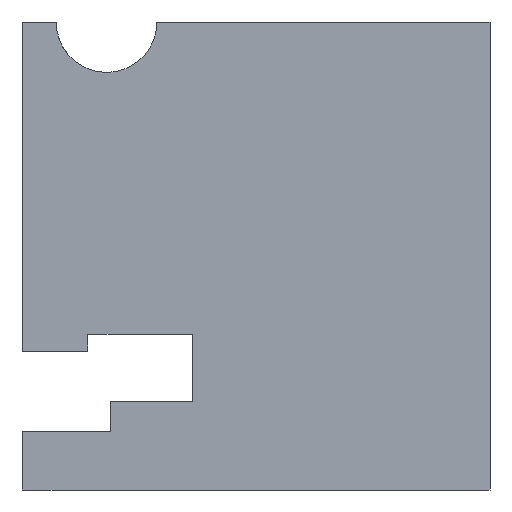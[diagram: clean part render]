
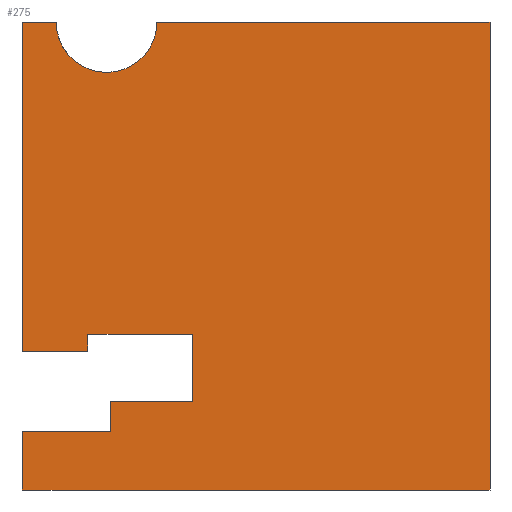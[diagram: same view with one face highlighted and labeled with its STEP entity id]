
A CAD part, front view. The second image highlights one B-rep face of the part: STEP entity #275.
In plain terms, the highlighted planar face has unit normal (0, -1, 0).
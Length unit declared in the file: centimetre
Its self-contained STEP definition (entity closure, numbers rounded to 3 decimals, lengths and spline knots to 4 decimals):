
#6 = CARTESIAN_POINT ( 'NONE',  ( 0., 0., 1000. ) ) ;
#8 = VECTOR ( 'NONE', #1647, 100. ) ;
#25 = CARTESIAN_POINT ( 'NONE',  ( 188.845, 0., 125.0425 ) ) ;
#51 = EDGE_CURVE ( 'NONE', #1244, #75, #1020, .T. ) ;
#63 = DIRECTION ( 'NONE',  ( -1., 0., 0. ) ) ;
#74 = LINE ( 'NONE', #376, #1509 ) ;
#75 = VERTEX_POINT ( 'NONE', #1354 ) ;
#106 = LINE ( 'NONE', #1511, #1222 ) ;
#131 = LINE ( 'NONE', #882, #1593 ) ;
#138 = VERTEX_POINT ( 'NONE', #1659 ) ;
#143 = DIRECTION ( 'NONE',  ( 1., 0., 0. ) ) ;
#175 = DIRECTION ( 'NONE',  ( 1., 0., 0. ) ) ;
#189 = ORIENTED_EDGE ( 'NONE', *, *, #1125, .F. ) ;
#246 = CARTESIAN_POINT ( 'NONE',  ( 140.6982, 0., 296.4554 ) ) ;
#247 = VERTEX_POINT ( 'NONE', #479 ) ;
#251 = DIRECTION ( 'NONE',  ( 0., 0., -1. ) ) ;
#266 = DIRECTION ( 'NONE',  ( 0., 0., -1. ) ) ;
#275 = ADVANCED_FACE ( 'NONE', ( #1549 ), #1397, .F. ) ;
#286 = CARTESIAN_POINT ( 'NONE',  ( 180.6003, 0., 1000. ) ) ;
#297 = EDGE_CURVE ( 'NONE', #247, #1536, #74, .T. ) ;
#307 = ORIENTED_EDGE ( 'NONE', *, *, #464, .T. ) ;
#321 = VECTOR ( 'NONE', #1171, 100. ) ;
#340 = CARTESIAN_POINT ( 'NONE',  ( 0., 0., 1000. ) ) ;
#361 = VERTEX_POINT ( 'NONE', #691 ) ;
#376 = CARTESIAN_POINT ( 'NONE',  ( 0., 0., 1000. ) ) ;
#395 = CARTESIAN_POINT ( 'NONE',  ( 140.6982, 0., 189.4679 ) ) ;
#403 = LINE ( 'NONE', #395, #321 ) ;
#419 = LINE ( 'NONE', #713, #991 ) ;
#421 = CARTESIAN_POINT ( 'NONE',  ( 0., 0., 1000. ) ) ;
#426 = VECTOR ( 'NONE', #1343, 100. ) ;
#461 = ORIENTED_EDGE ( 'NONE', *, *, #1425, .T. ) ;
#464 = EDGE_CURVE ( 'NONE', #138, #916, #403, .T. ) ;
#468 = DIRECTION ( 'NONE',  ( 0., 0., 1. ) ) ;
#474 = ORIENTED_EDGE ( 'NONE', *, *, #51, .T. ) ;
#479 = CARTESIAN_POINT ( 'NONE',  ( 288.2997, 0., 1000. ) ) ;
#483 = LINE ( 'NONE', #1054, #1112 ) ;
#490 = EDGE_CURVE ( 'NONE', #361, #247, #706, .T. ) ;
#491 = VERTEX_POINT ( 'NONE', #1029 ) ;
#516 = VERTEX_POINT ( 'NONE', #246 ) ;
#517 = CARTESIAN_POINT ( 'NONE',  ( 0., 0., 125.0425 ) ) ;
#522 = LINE ( 'NONE', #1881, #610 ) ;
#564 = EDGE_CURVE ( 'NONE', #491, #751, #419, .T. ) ;
#610 = VECTOR ( 'NONE', #63, 100. ) ;
#675 = EDGE_CURVE ( 'NONE', #1446, #1510, #106, .T. ) ;
#691 = CARTESIAN_POINT ( 'NONE',  ( 180.6003, 0., 892.3005 ) ) ;
#706 = CIRCLE ( 'NONE', #1800, 107.6995 ) ;
#710 = CARTESIAN_POINT ( 'NONE',  ( 180.6003, 0., 1000. ) ) ;
#713 = CARTESIAN_POINT ( 'NONE',  ( 140.6982, 0., 332.4044 ) ) ;
#751 = VERTEX_POINT ( 'NONE', #1096 ) ;
#764 = LINE ( 'NONE', #1094, #866 ) ;
#766 = VECTOR ( 'NONE', #251, 100. ) ;
#785 = LINE ( 'NONE', #340, #1248 ) ;
#866 = VECTOR ( 'NONE', #1711, 100. ) ;
#880 = VERTEX_POINT ( 'NONE', #517 ) ;
#882 = CARTESIAN_POINT ( 'NONE',  ( 1000., 0., 1000. ) ) ;
#884 = DIRECTION ( 'NONE',  ( 0., 0., -1. ) ) ;
#889 = CARTESIAN_POINT ( 'NONE',  ( 0., 0., 0. ) ) ;
#891 = CARTESIAN_POINT ( 'NONE',  ( 364.6813, 0., 189.4679 ) ) ;
#897 = VERTEX_POINT ( 'NONE', #1877 ) ;
#911 = DIRECTION ( 'NONE',  ( 0., 1., 0. ) ) ;
#916 = VERTEX_POINT ( 'NONE', #1114 ) ;
#967 = ORIENTED_EDGE ( 'NONE', *, *, #1790, .T. ) ;
#991 = VECTOR ( 'NONE', #1040, 100. ) ;
#1015 = ORIENTED_EDGE ( 'NONE', *, *, #675, .F. ) ;
#1020 = LINE ( 'NONE', #889, #426 ) ;
#1029 = CARTESIAN_POINT ( 'NONE',  ( 140.6982, 0., 332.4044 ) ) ;
#1040 = DIRECTION ( 'NONE',  ( 1., 0., 0. ) ) ;
#1054 = CARTESIAN_POINT ( 'NONE',  ( 0., 0., 125.0425 ) ) ;
#1078 = CARTESIAN_POINT ( 'NONE',  ( 72.9008, 0., 1000. ) ) ;
#1094 = CARTESIAN_POINT ( 'NONE',  ( 0., 0., 1000. ) ) ;
#1096 = CARTESIAN_POINT ( 'NONE',  ( 364.6813, 0., 332.4044 ) ) ;
#1103 = EDGE_CURVE ( 'NONE', #1536, #75, #131, .T. ) ;
#1112 = VECTOR ( 'NONE', #175, 100. ) ;
#1114 = CARTESIAN_POINT ( 'NONE',  ( 188.845, 0., 189.4679 ) ) ;
#1125 = EDGE_CURVE ( 'NONE', #1510, #361, #1219, .T. ) ;
#1127 = ORIENTED_EDGE ( 'NONE', *, *, #1103, .F. ) ;
#1136 = EDGE_CURVE ( 'NONE', #751, #138, #1940, .T. ) ;
#1167 = VERTEX_POINT ( 'NONE', #1661 ) ;
#1171 = DIRECTION ( 'NONE',  ( -1., 0., 0. ) ) ;
#1210 = CARTESIAN_POINT ( 'NONE',  ( 0., 0., 0. ) ) ;
#1219 = CIRCLE ( 'NONE', #1855, 107.6995 ) ;
#1222 = VECTOR ( 'NONE', #143, 100. ) ;
#1244 = VERTEX_POINT ( 'NONE', #1210 ) ;
#1248 = VECTOR ( 'NONE', #1561, 100. ) ;
#1286 = EDGE_CURVE ( 'NONE', #880, #1167, #483, .T. ) ;
#1332 = LINE ( 'NONE', #1926, #8 ) ;
#1343 = DIRECTION ( 'NONE',  ( 1., 0., 0. ) ) ;
#1346 = DIRECTION ( 'NONE',  ( 0., -1., 0. ) ) ;
#1354 = CARTESIAN_POINT ( 'NONE',  ( 1000., 0., 0. ) ) ;
#1360 = LINE ( 'NONE', #25, #1631 ) ;
#1369 = EDGE_CURVE ( 'NONE', #516, #897, #522, .T. ) ;
#1397 = PLANE ( 'NONE',  #1734 ) ;
#1425 = EDGE_CURVE ( 'NONE', #516, #491, #1332, .T. ) ;
#1446 = VERTEX_POINT ( 'NONE', #421 ) ;
#1452 = ORIENTED_EDGE ( 'NONE', *, *, #564, .T. ) ;
#1476 = DIRECTION ( 'NONE',  ( 0., -1., 0. ) ) ;
#1494 = ORIENTED_EDGE ( 'NONE', *, *, #1496, .F. ) ;
#1496 = EDGE_CURVE ( 'NONE', #1167, #916, #1360, .T. ) ;
#1509 = VECTOR ( 'NONE', #1607, 100. ) ;
#1510 = VERTEX_POINT ( 'NONE', #1078 ) ;
#1511 = CARTESIAN_POINT ( 'NONE',  ( 0., 0., 1000. ) ) ;
#1536 = VERTEX_POINT ( 'NONE', #1693 ) ;
#1549 = FACE_OUTER_BOUND ( 'NONE', #1901, .T. ) ;
#1561 = DIRECTION ( 'NONE',  ( 0., 0., -1. ) ) ;
#1593 = VECTOR ( 'NONE', #266, 100. ) ;
#1594 = ORIENTED_EDGE ( 'NONE', *, *, #1369, .F. ) ;
#1607 = DIRECTION ( 'NONE',  ( 1., 0., 0. ) ) ;
#1621 = ORIENTED_EDGE ( 'NONE', *, *, #1286, .F. ) ;
#1631 = VECTOR ( 'NONE', #1665, 100. ) ;
#1647 = DIRECTION ( 'NONE',  ( 0., 0., 1. ) ) ;
#1650 = ORIENTED_EDGE ( 'NONE', *, *, #490, .F. ) ;
#1659 = CARTESIAN_POINT ( 'NONE',  ( 364.6813, 0., 189.4679 ) ) ;
#1661 = CARTESIAN_POINT ( 'NONE',  ( 188.845, 0., 125.0425 ) ) ;
#1665 = DIRECTION ( 'NONE',  ( 0., 0., 1. ) ) ;
#1693 = CARTESIAN_POINT ( 'NONE',  ( 1000., 0., 1000. ) ) ;
#1711 = DIRECTION ( 'NONE',  ( 0., 0., -1. ) ) ;
#1734 = AXIS2_PLACEMENT_3D ( 'NONE', #6, #911, #468 ) ;
#1735 = ORIENTED_EDGE ( 'NONE', *, *, #1136, .T. ) ;
#1778 = EDGE_CURVE ( 'NONE', #880, #1244, #764, .T. ) ;
#1790 = EDGE_CURVE ( 'NONE', #1446, #897, #785, .T. ) ;
#1800 = AXIS2_PLACEMENT_3D ( 'NONE', #710, #1476, #884 ) ;
#1814 = DIRECTION ( 'NONE',  ( 0., 0., -1. ) ) ;
#1827 = ORIENTED_EDGE ( 'NONE', *, *, #1778, .T. ) ;
#1855 = AXIS2_PLACEMENT_3D ( 'NONE', #286, #1346, #1814 ) ;
#1877 = CARTESIAN_POINT ( 'NONE',  ( 0., 0., 296.4554 ) ) ;
#1881 = CARTESIAN_POINT ( 'NONE',  ( 0., 0., 296.4554 ) ) ;
#1901 = EDGE_LOOP ( 'NONE', ( #1594, #461, #1452, #1735, #307, #1494, #1621, #1827, #474, #1127, #1927, #1650, #189, #1015, #967 ) ) ;
#1926 = CARTESIAN_POINT ( 'NONE',  ( 140.6982, 0., 189.4679 ) ) ;
#1927 = ORIENTED_EDGE ( 'NONE', *, *, #297, .F. ) ;
#1940 = LINE ( 'NONE', #891, #766 ) ;
